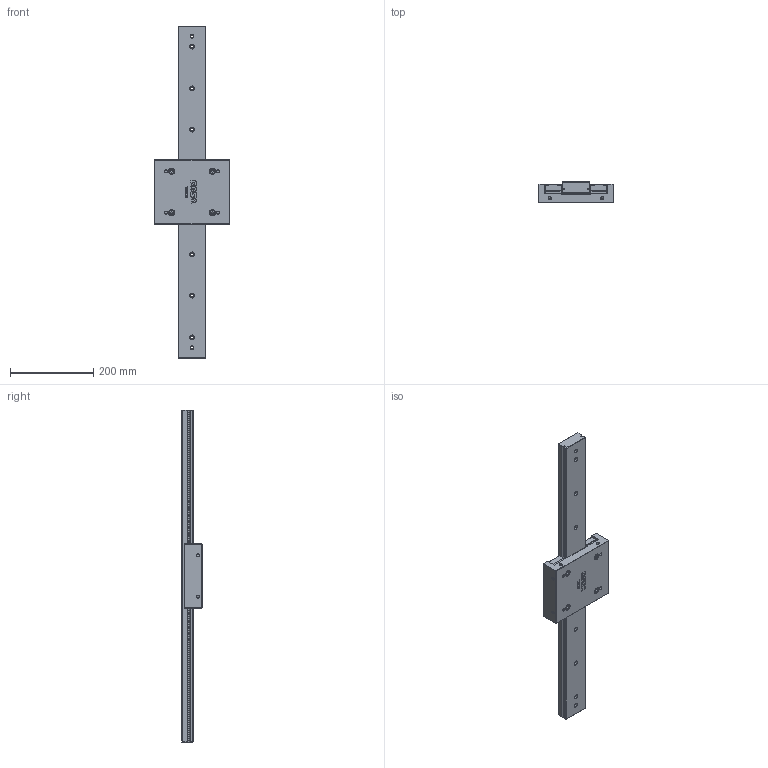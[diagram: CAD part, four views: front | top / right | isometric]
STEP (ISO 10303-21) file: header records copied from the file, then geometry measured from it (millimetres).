
FILE_DESCRIPTION(/* description */ ('TAVOLA TRKD09 L= 800 mm'),/* implementation_level */ '2;1');
FILE_NAME(/* name */ 'TRKD090800-00.stp',/* time_stamp */ '2024-01-30T11:52:14+01:00',/* author */ ('Rosa Sistemi'),/* organization */ (''),/* preprocessor_version */ 'ST-DEVELOPER v20',/* originating_system */ 'Autodesk Inventor 2024',/* authorisation */ '');
FILE_SCHEMA (('AUTOMOTIVE_DESIGN { 1 0 10303 214 3 1 1 }'));
Length unit declared in the file: millimetre
Products named in the file (2): TRKD090800-00; TRKD090800-00_1
Assembly tree (1 placements, depth 2):
  TRKD090800-00
    TRKD090800-00_1
Bounding box: 180 x 49 x 800 mm (x, y, z)
Volume: 2295195.6 mm3; surface area: 306523.6 mm2
Topology: 22 solids, 22 shells, 714 faces, 1814 edges, 1151 vertices
Faces by surface type: plane 430, cone 104, cylinder 95, bspline 31, sphere 30, torus 24
Full cylindrical faces by diameter (mm): 2 x2, 4.134 x4, 4.823 x1, 6 x8, 6.647 x24, 7 x2, 8 x1, 9 x3, 10.5 x12, 13 x4, 13.263 x1, 14 x4
Entity records: 22629 total; most frequent: CARTESIAN_POINT 4939, ORIENTED_EDGE 3484, DIRECTION 3429, EDGE_CURVE 1742, AXIS2_PLACEMENT_3D 1187, VERTEX_POINT 1151, LINE 1055, VECTOR 1055
